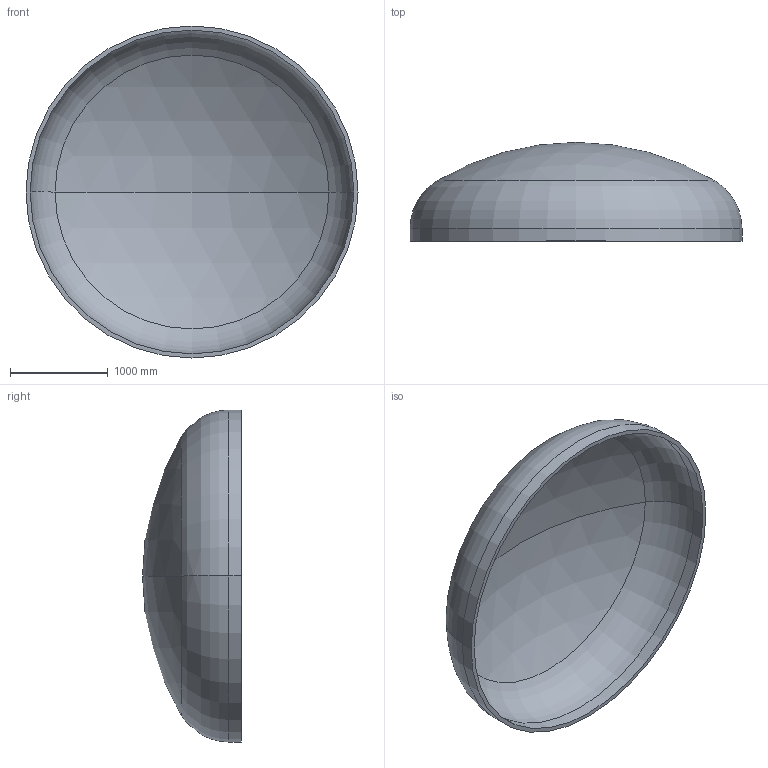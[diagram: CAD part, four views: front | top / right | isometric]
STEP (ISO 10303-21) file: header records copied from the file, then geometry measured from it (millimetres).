
FILE_DESCRIPTION (( 'STEP AP203' ), '1' );
FILE_NAME ('DIN 28013 Korbbogenform_-_Boden DIN 28013 - 3400 x 130 - I - s=43.step', '2016-07-01T19:31:05', ( '' ), ( '' ), 'SwSTEP 2.0', 'SolidWorks 2013', '' );
FILE_SCHEMA (( 'CONFIG_CONTROL_DESIGN' ));
Length unit declared in the file: millimetre
Products named in the file (1): DIN 28013 Korbbogenform_-_Boden DIN 28013 - 3400 x 130 - I - s=43
Bounding box: 3400 x 1012.41 x 3400 mm (x, y, z)
Volume: 590975466.7 mm3; surface area: 27944585.8 mm2
Topology: 1 solids, 1 shells, 13 faces, 24 edges, 14 vertices
Faces by surface type: torus 4, cylinder 4, sphere 4, plane 1
Entity records: 407 total; most frequent: DIRECTION 72, CARTESIAN_POINT 52, ORIENTED_EDGE 48, AXIS2_PLACEMENT_3D 34, EDGE_CURVE 24, CIRCLE 20, VERTEX_POINT 14, EDGE_LOOP 14
